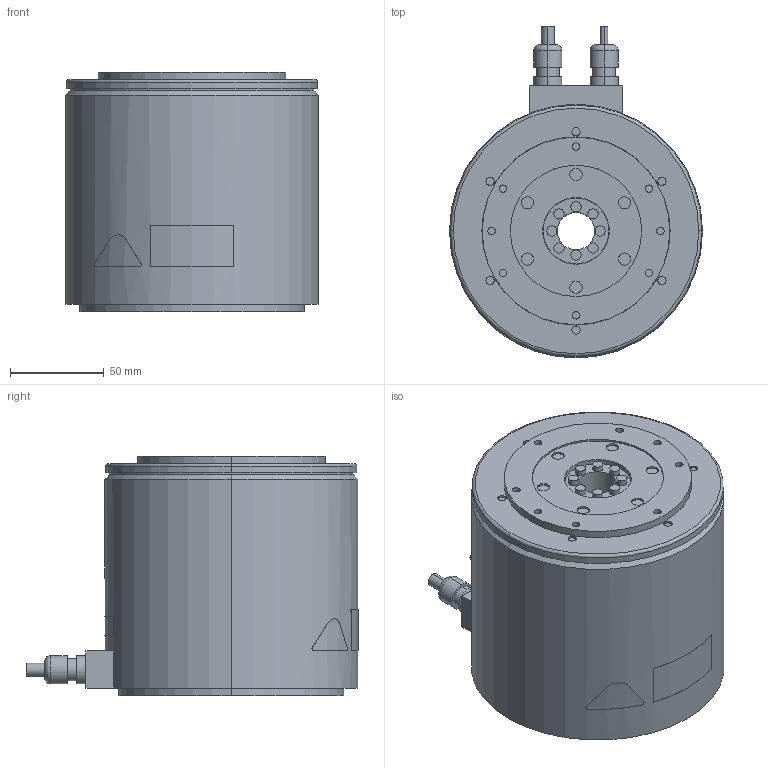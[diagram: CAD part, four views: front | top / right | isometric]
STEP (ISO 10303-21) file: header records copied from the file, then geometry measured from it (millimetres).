
FILE_DESCRIPTION (( 'STEP AP203' ), '1' );
FILE_NAME ('sgm7e_07b_a4_.STEP', '2016-06-02T07:44:07', ( '' ), ( '' ), 'SwSTEP 2.0', 'SolidWorks 2010', '' );
FILE_SCHEMA (( 'CONFIG_CONTROL_DESIGN' ));
Length unit declared in the file: millimetre
Products named in the file (1): sgm7e_07b_a4_
Bounding box: 135 x 177.1 x 128 mm (x, y, z)
Volume: 1762059.1 mm3; surface area: 98236.8 mm2
Topology: 1 solids, 1 shells, 228 faces, 468 edges, 308 vertices
Faces by surface type: cylinder 134, plane 79, torus 6, bspline 5, cone 4
Entity records: 6835 total; most frequent: CARTESIAN_POINT 1670, DIRECTION 1188, ORIENTED_EDGE 936, AXIS2_PLACEMENT_3D 512, EDGE_CURVE 468, VERTEX_POINT 308, EDGE_LOOP 296, CIRCLE 288
